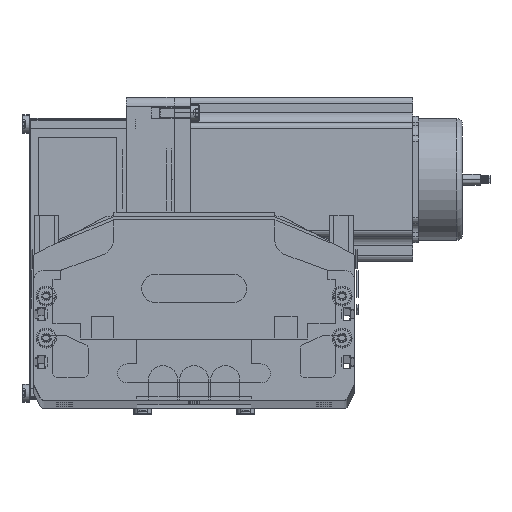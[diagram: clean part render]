
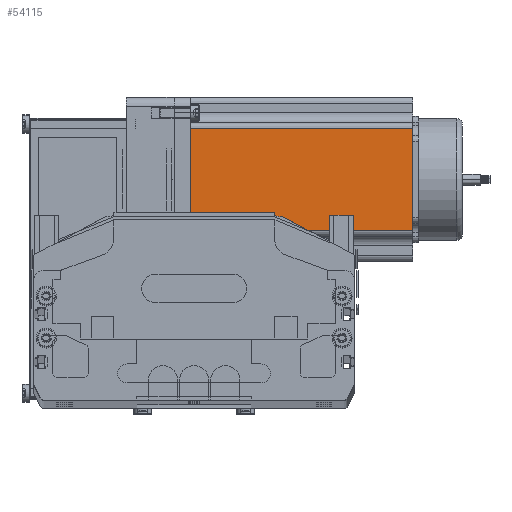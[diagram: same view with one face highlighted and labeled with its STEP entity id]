
A CAD part, top view. The second image highlights one B-rep face of the part: STEP entity #54115.
In plain terms, the highlighted planar face has unit normal (0, 0, 1) as drawn and (0, -1, 0) by its records, which use the part's own axes.
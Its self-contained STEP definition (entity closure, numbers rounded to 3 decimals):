
#4273 = DIRECTION ( 'NONE',  ( 1., 0., 0. ) ) ;
#4274 = VECTOR ( 'NONE', #4273, 1000. ) ;
#4279 = CARTESIAN_POINT ( 'NONE',  ( 0., 0., 0. ) ) ;
#4280 = CARTESIAN_POINT ( 'NONE',  ( 69.74, 0., 0. ) ) ;
#4282 = LINE ( 'NONE', #4279, #4274 ) ;
#4284 = CARTESIAN_POINT ( 'NONE',  ( 16.16, 0., 0. ) ) ;
#4321 = CARTESIAN_POINT ( 'NONE',  ( 0., 0., 116.5 ) ) ;
#4322 = LINE ( 'NONE', #4321, #4378 ) ;
#4335 = CARTESIAN_POINT ( 'NONE',  ( 16.16, 0., 116.5 ) ) ;
#4377 = DIRECTION ( 'NONE',  ( 1., 0., 0. ) ) ;
#4378 = VECTOR ( 'NONE', #4377, 1000. ) ;
#19651 = CARTESIAN_POINT ( 'NONE',  ( 0., 0., 116.5 ) ) ;
#19694 = FACE_OUTER_BOUND ( 'NONE', #54227, .T. ) ;
#19757 = DIRECTION ( 'NONE',  ( 0., 0., 1. ) ) ;
#19758 = DIRECTION ( 'NONE',  ( 0., 1., 0. ) ) ;
#19782 = PLANE ( 'NONE',  #19799 ) ;
#19799 = AXIS2_PLACEMENT_3D ( 'NONE', #19651, #19758, #19757 ) ;
#20073 = DIRECTION ( 'NONE',  ( 0., 0., 1. ) ) ;
#20075 = VECTOR ( 'NONE', #20073, 1000. ) ;
#20077 = CARTESIAN_POINT ( 'NONE',  ( 69.74, 0., 116.5 ) ) ;
#20079 = LINE ( 'NONE', #20077, #20075 ) ;
#20084 = DIRECTION ( 'NONE',  ( 0., 0., -1. ) ) ;
#20086 = VECTOR ( 'NONE', #20084, 1000. ) ;
#20125 = CARTESIAN_POINT ( 'NONE',  ( 16.16, 0., 116.5 ) ) ;
#20127 = LINE ( 'NONE', #20125, #20086 ) ;
#20140 = CARTESIAN_POINT ( 'NONE',  ( 69.74, 0., 116.5 ) ) ;
#54115 = ADVANCED_FACE ( 'NONE', ( #19694 ), #19782, .F. ) ;
#54189 = EDGE_CURVE ( 'NONE', #54280, #54238, #20127, .T. ) ;
#54190 = EDGE_CURVE ( 'NONE', #54237, #54191, #20079, .T. ) ;
#54191 = VERTEX_POINT ( 'NONE', #20140 ) ;
#54227 = EDGE_LOOP ( 'NONE', ( #54277, #54279, #54278, #54265 ) ) ;
#54236 = EDGE_CURVE ( 'NONE', #54238, #54237, #4282, .T. ) ;
#54237 = VERTEX_POINT ( 'NONE', #4280 ) ;
#54238 = VERTEX_POINT ( 'NONE', #4284 ) ;
#54265 = ORIENTED_EDGE ( 'NONE', *, *, #54189, .T. ) ;
#54277 = ORIENTED_EDGE ( 'NONE', *, *, #54236, .T. ) ;
#54278 = ORIENTED_EDGE ( 'NONE', *, *, #54281, .F. ) ;
#54279 = ORIENTED_EDGE ( 'NONE', *, *, #54190, .T. ) ;
#54280 = VERTEX_POINT ( 'NONE', #4335 ) ;
#54281 = EDGE_CURVE ( 'NONE', #54280, #54191, #4322, .T. ) ;
